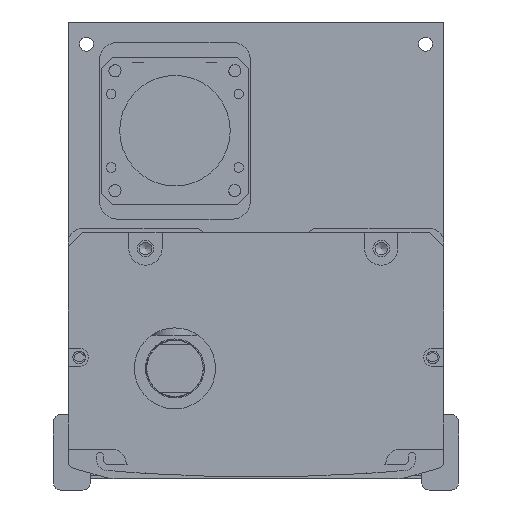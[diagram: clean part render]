
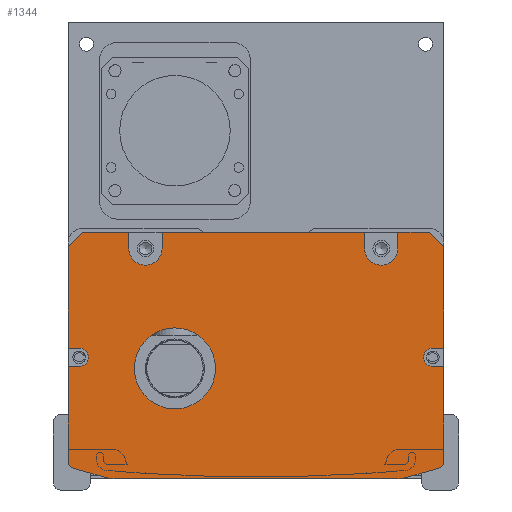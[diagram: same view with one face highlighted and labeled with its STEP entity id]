
A CAD part, front view. The second image highlights one B-rep face of the part: STEP entity #1344.
In plain terms, the highlighted planar face has unit normal (0, -1, 0).
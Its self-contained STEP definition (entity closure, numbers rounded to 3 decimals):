
#1344=ADVANCED_FACE('',(#3990,#3991),#2128,.F.);
#2128=PLANE('',#13024);
#2515=LINE('',#18638,#3277);
#2516=LINE('',#18641,#3278);
#2517=LINE('',#18643,#3279);
#2518=LINE('',#18645,#3280);
#2519=LINE('',#18649,#3281);
#2520=LINE('',#18651,#3282);
#2521=LINE('',#18653,#3283);
#2522=LINE('',#18657,#3284);
#2523=LINE('',#18659,#3285);
#2524=LINE('',#18661,#3286);
#2525=LINE('',#18663,#3287);
#2526=LINE('',#18665,#3288);
#2527=LINE('',#18669,#3289);
#2528=LINE('',#18671,#3290);
#2529=LINE('',#18675,#3291);
#2530=LINE('',#18679,#3292);
#2531=LINE('',#18683,#3293);
#2532=LINE('',#18687,#3294);
#2533=LINE('',#18689,#3295);
#2534=LINE('',#18693,#3296);
#3277=VECTOR('',#14759,1.);
#3278=VECTOR('',#14760,1.);
#3279=VECTOR('',#14761,1.);
#3280=VECTOR('',#14762,1.);
#3281=VECTOR('',#14765,1.);
#3282=VECTOR('',#14766,1.);
#3283=VECTOR('',#14767,1.);
#3284=VECTOR('',#14770,1.);
#3285=VECTOR('',#14771,1.);
#3286=VECTOR('',#14772,1.);
#3287=VECTOR('',#14773,1.);
#3288=VECTOR('',#14774,1.);
#3289=VECTOR('',#14777,1.);
#3290=VECTOR('',#14778,1.);
#3291=VECTOR('',#14781,1.);
#3292=VECTOR('',#14784,1.);
#3293=VECTOR('',#14787,1.);
#3294=VECTOR('',#14790,1.);
#3295=VECTOR('',#14791,1.);
#3296=VECTOR('',#14794,1.);
#3990=FACE_BOUND('',#4660,.T.);
#3991=FACE_BOUND('',#4661,.T.);
#4660=EDGE_LOOP('',(#5945,#5946,#5947,#5948,#5949,#5950,#5951,#5952,#5953,
#5954,#5955,#5956,#5957,#5958,#5959,#5960,#5961,#5962,#5963,#5964,#5965,
#5966,#5967,#5968,#5969,#5970,#5971,#5972));
#4661=EDGE_LOOP('',(#5973));
#5945=ORIENTED_EDGE('',*,*,#10625,.T.);
#5946=ORIENTED_EDGE('',*,*,#10626,.T.);
#5947=ORIENTED_EDGE('',*,*,#10627,.T.);
#5948=ORIENTED_EDGE('',*,*,#10628,.F.);
#5949=ORIENTED_EDGE('',*,*,#10629,.T.);
#5950=ORIENTED_EDGE('',*,*,#10630,.F.);
#5951=ORIENTED_EDGE('',*,*,#10631,.T.);
#5952=ORIENTED_EDGE('',*,*,#10632,.F.);
#5953=ORIENTED_EDGE('',*,*,#10633,.T.);
#5954=ORIENTED_EDGE('',*,*,#10634,.F.);
#5955=ORIENTED_EDGE('',*,*,#10635,.T.);
#5956=ORIENTED_EDGE('',*,*,#10636,.T.);
#5957=ORIENTED_EDGE('',*,*,#10637,.T.);
#5958=ORIENTED_EDGE('',*,*,#10638,.T.);
#5959=ORIENTED_EDGE('',*,*,#10639,.T.);
#5960=ORIENTED_EDGE('',*,*,#10640,.T.);
#5961=ORIENTED_EDGE('',*,*,#10641,.T.);
#5962=ORIENTED_EDGE('',*,*,#10642,.T.);
#5963=ORIENTED_EDGE('',*,*,#10643,.T.);
#5964=ORIENTED_EDGE('',*,*,#10644,.T.);
#5965=ORIENTED_EDGE('',*,*,#10645,.T.);
#5966=ORIENTED_EDGE('',*,*,#10646,.T.);
#5967=ORIENTED_EDGE('',*,*,#10647,.T.);
#5968=ORIENTED_EDGE('',*,*,#10648,.T.);
#5969=ORIENTED_EDGE('',*,*,#10649,.T.);
#5970=ORIENTED_EDGE('',*,*,#10650,.T.);
#5971=ORIENTED_EDGE('',*,*,#10651,.T.);
#5972=ORIENTED_EDGE('',*,*,#10652,.T.);
#5973=ORIENTED_EDGE('',*,*,#10653,.T.);
#9382=VERTEX_POINT('',#18639);
#9383=VERTEX_POINT('',#18640);
#9384=VERTEX_POINT('',#18642);
#9385=VERTEX_POINT('',#18644);
#9386=VERTEX_POINT('',#18646);
#9387=VERTEX_POINT('',#18648);
#9388=VERTEX_POINT('',#18650);
#9389=VERTEX_POINT('',#18652);
#9390=VERTEX_POINT('',#18654);
#9391=VERTEX_POINT('',#18656);
#9392=VERTEX_POINT('',#18658);
#9393=VERTEX_POINT('',#18660);
#9394=VERTEX_POINT('',#18662);
#9395=VERTEX_POINT('',#18664);
#9396=VERTEX_POINT('',#18666);
#9397=VERTEX_POINT('',#18668);
#9398=VERTEX_POINT('',#18670);
#9399=VERTEX_POINT('',#18672);
#9400=VERTEX_POINT('',#18674);
#9401=VERTEX_POINT('',#18676);
#9402=VERTEX_POINT('',#18678);
#9403=VERTEX_POINT('',#18680);
#9404=VERTEX_POINT('',#18682);
#9405=VERTEX_POINT('',#18684);
#9406=VERTEX_POINT('',#18686);
#9407=VERTEX_POINT('',#18688);
#9408=VERTEX_POINT('',#18690);
#9409=VERTEX_POINT('',#18692);
#9410=VERTEX_POINT('',#18695);
#10625=EDGE_CURVE('',#9382,#9383,#2515,.T.);
#10626=EDGE_CURVE('',#9383,#9384,#2516,.T.);
#10627=EDGE_CURVE('',#9384,#9385,#2517,.T.);
#10628=EDGE_CURVE('',#9386,#9385,#2518,.T.);
#10629=EDGE_CURVE('',#9386,#9387,#12249,.T.);
#10630=EDGE_CURVE('',#9388,#9387,#2519,.T.);
#10631=EDGE_CURVE('',#9388,#9389,#2520,.T.);
#10632=EDGE_CURVE('',#9390,#9389,#2521,.T.);
#10633=EDGE_CURVE('',#9390,#9391,#12250,.T.);
#10634=EDGE_CURVE('',#9392,#9391,#2522,.T.);
#10635=EDGE_CURVE('',#9392,#9393,#2523,.T.);
#10636=EDGE_CURVE('',#9393,#9394,#2524,.T.);
#10637=EDGE_CURVE('',#9394,#9395,#2525,.T.);
#10638=EDGE_CURVE('',#9395,#9396,#2526,.T.);
#10639=EDGE_CURVE('',#9396,#9397,#12251,.T.);
#10640=EDGE_CURVE('',#9397,#9398,#2527,.T.);
#10641=EDGE_CURVE('',#9398,#9399,#2528,.T.);
#10642=EDGE_CURVE('',#9399,#9400,#12252,.T.);
#10643=EDGE_CURVE('',#9400,#9401,#2529,.T.);
#10644=EDGE_CURVE('',#9401,#9402,#12253,.T.);
#10645=EDGE_CURVE('',#9402,#9403,#2530,.T.);
#10646=EDGE_CURVE('',#9403,#9404,#12254,.T.);
#10647=EDGE_CURVE('',#9404,#9405,#2531,.T.);
#10648=EDGE_CURVE('',#9405,#9406,#12255,.T.);
#10649=EDGE_CURVE('',#9406,#9407,#2532,.T.);
#10650=EDGE_CURVE('',#9407,#9408,#2533,.T.);
#10651=EDGE_CURVE('',#9408,#9409,#12256,.T.);
#10652=EDGE_CURVE('',#9409,#9382,#2534,.T.);
#10653=EDGE_CURVE('',#9410,#9410,#12257,.T.);
#12249=CIRCLE('',#13015,4.5);
#12250=CIRCLE('',#13016,4.5);
#12251=CIRCLE('',#13017,2.5);
#12252=CIRCLE('',#13018,2.);
#12253=CIRCLE('',#13019,10.);
#12254=CIRCLE('',#13020,10.);
#12255=CIRCLE('',#13021,2.);
#12256=CIRCLE('',#13022,2.5);
#12257=CIRCLE('',#13023,11.);
#13015=AXIS2_PLACEMENT_3D('',#18647,#14763,#14764);
#13016=AXIS2_PLACEMENT_3D('',#18655,#14768,#14769);
#13017=AXIS2_PLACEMENT_3D('',#18667,#14775,#14776);
#13018=AXIS2_PLACEMENT_3D('',#18673,#14779,#14780);
#13019=AXIS2_PLACEMENT_3D('',#18677,#14782,#14783);
#13020=AXIS2_PLACEMENT_3D('',#18681,#14785,#14786);
#13021=AXIS2_PLACEMENT_3D('',#18685,#14788,#14789);
#13022=AXIS2_PLACEMENT_3D('',#18691,#14792,#14793);
#13023=AXIS2_PLACEMENT_3D('',#18694,#14795,#14796);
#13024=AXIS2_PLACEMENT_3D('',#18696,#14797,#14798);
#14759=DIRECTION('',(0.,0.,1.));
#14760=DIRECTION('',(-0.707,0.,0.707));
#14761=DIRECTION('',(-1.,0.,0.));
#14762=DIRECTION('',(0.,0.,1.));
#14763=DIRECTION('',(0.,1.,0.));
#14764=DIRECTION('',(0.,0.,1.));
#14765=DIRECTION('',(0.,0.,-1.));
#14766=DIRECTION('',(-1.,0.,0.));
#14767=DIRECTION('',(0.,0.,1.));
#14768=DIRECTION('',(0.,1.,0.));
#14769=DIRECTION('',(0.,0.,1.));
#14770=DIRECTION('',(0.,0.,-1.));
#14771=DIRECTION('',(-1.,0.,0.));
#14772=DIRECTION('',(-0.707,0.,-0.707));
#14773=DIRECTION('',(0.,0.,-1.));
#14774=DIRECTION('',(1.,0.,0.));
#14775=DIRECTION('',(0.,1.,0.));
#14776=DIRECTION('',(0.,0.,1.));
#14777=DIRECTION('',(-1.,0.,0.));
#14778=DIRECTION('',(0.,0.,-1.));
#14779=DIRECTION('',(0.,-1.,0.));
#14780=DIRECTION('',(0.,0.,1.));
#14781=DIRECTION('',(0.963,0.,-0.269));
#14782=DIRECTION('',(0.,-1.,0.));
#14783=DIRECTION('',(0.,0.,1.));
#14784=DIRECTION('',(1.,0.,0.));
#14785=DIRECTION('',(0.,-1.,0.));
#14786=DIRECTION('',(0.,0.,-1.));
#14787=DIRECTION('',(0.963,0.,0.269));
#14788=DIRECTION('',(0.,-1.,0.));
#14789=DIRECTION('',(0.,0.,-1.));
#14790=DIRECTION('',(0.,0.,1.));
#14791=DIRECTION('',(-1.,0.,0.));
#14792=DIRECTION('',(0.,1.,0.));
#14793=DIRECTION('',(0.,0.,1.));
#14794=DIRECTION('',(1.,0.,0.));
#14795=DIRECTION('',(0.,1.,0.));
#14796=DIRECTION('',(0.,0.,1.));
#14797=DIRECTION('',(0.,1.,0.));
#14798=DIRECTION('',(-1.,0.,0.));
#18638=CARTESIAN_POINT('',(47.808,-367.5,-1.));
#18639=CARTESIAN_POINT('',(47.808,-367.5,-32.5));
#18640=CARTESIAN_POINT('',(47.808,-367.5,-5.));
#18641=CARTESIAN_POINT('',(43.808,-367.5,-1.));
#18642=CARTESIAN_POINT('',(43.808,-367.5,-1.));
#18643=CARTESIAN_POINT('',(-3.192,-367.5,-1.));
#18644=CARTESIAN_POINT('',(35.308,-367.5,-1.));
#18645=CARTESIAN_POINT('',(35.308,-367.5,-1.));
#18646=CARTESIAN_POINT('',(35.308,-367.5,-5.5));
#18647=CARTESIAN_POINT('',(30.808,-367.5,-5.5));
#18648=CARTESIAN_POINT('',(26.308,-367.5,-5.5));
#18649=CARTESIAN_POINT('',(26.308,-367.5,-1.));
#18650=CARTESIAN_POINT('',(26.308,-367.5,-1.));
#18651=CARTESIAN_POINT('',(-54.192,-367.5,-1.));
#18652=CARTESIAN_POINT('',(-28.692,-367.5,-1.));
#18653=CARTESIAN_POINT('',(-28.692,-367.5,-3.5));
#18654=CARTESIAN_POINT('',(-28.692,-367.5,-5.5));
#18655=CARTESIAN_POINT('',(-33.192,-367.5,-5.5));
#18656=CARTESIAN_POINT('',(-37.692,-367.5,-5.5));
#18657=CARTESIAN_POINT('',(-37.692,-367.5,-1.));
#18658=CARTESIAN_POINT('',(-37.692,-367.5,-1.));
#18659=CARTESIAN_POINT('',(-54.192,-367.5,-1.));
#18660=CARTESIAN_POINT('',(-50.192,-367.5,-1.));
#18661=CARTESIAN_POINT('',(-54.192,-367.5,-5.));
#18662=CARTESIAN_POINT('',(-54.192,-367.5,-5.));
#18663=CARTESIAN_POINT('',(-54.192,-367.5,-62.));
#18664=CARTESIAN_POINT('',(-54.192,-367.5,-32.5));
#18665=CARTESIAN_POINT('',(-3.192,-367.5,-32.5));
#18666=CARTESIAN_POINT('',(-51.192,-367.5,-32.5));
#18667=CARTESIAN_POINT('',(-51.192,-367.5,-35.));
#18668=CARTESIAN_POINT('',(-51.192,-367.5,-37.5));
#18669=CARTESIAN_POINT('',(-3.192,-367.5,-37.5));
#18670=CARTESIAN_POINT('',(-54.192,-367.5,-37.5));
#18671=CARTESIAN_POINT('',(-54.192,-367.5,-62.));
#18672=CARTESIAN_POINT('',(-54.192,-367.5,-63.212));
#18673=CARTESIAN_POINT('',(-52.192,-367.5,-63.212));
#18674=CARTESIAN_POINT('',(-52.731,-367.5,-65.138));
#18675=CARTESIAN_POINT('',(-55.807,-367.5,-64.279));
#18676=CARTESIAN_POINT('',(-43.809,-367.5,-67.631));
#18677=CARTESIAN_POINT('',(-41.118,-367.5,-58.));
#18678=CARTESIAN_POINT('',(-41.118,-367.5,-68.));
#18679=CARTESIAN_POINT('',(-54.692,-367.5,-68.));
#18680=CARTESIAN_POINT('',(34.733,-367.5,-68.));
#18681=CARTESIAN_POINT('',(34.733,-367.5,-58.));
#18682=CARTESIAN_POINT('',(37.424,-367.5,-67.631));
#18683=CARTESIAN_POINT('',(49.422,-367.5,-64.279));
#18684=CARTESIAN_POINT('',(46.346,-367.5,-65.138));
#18685=CARTESIAN_POINT('',(45.808,-367.5,-63.212));
#18686=CARTESIAN_POINT('',(47.808,-367.5,-63.212));
#18687=CARTESIAN_POINT('',(47.808,-367.5,-1.));
#18688=CARTESIAN_POINT('',(47.808,-367.5,-37.5));
#18689=CARTESIAN_POINT('',(-3.192,-367.5,-37.5));
#18690=CARTESIAN_POINT('',(44.808,-367.5,-37.5));
#18691=CARTESIAN_POINT('',(44.808,-367.5,-35.));
#18692=CARTESIAN_POINT('',(44.808,-367.5,-32.5));
#18693=CARTESIAN_POINT('',(-3.192,-367.5,-32.5));
#18694=CARTESIAN_POINT('',(-25.192,-367.5,-38.));
#18695=CARTESIAN_POINT('',(-25.192,-367.5,-27.));
#18696=CARTESIAN_POINT('',(-3.192,-367.5,-1.));
